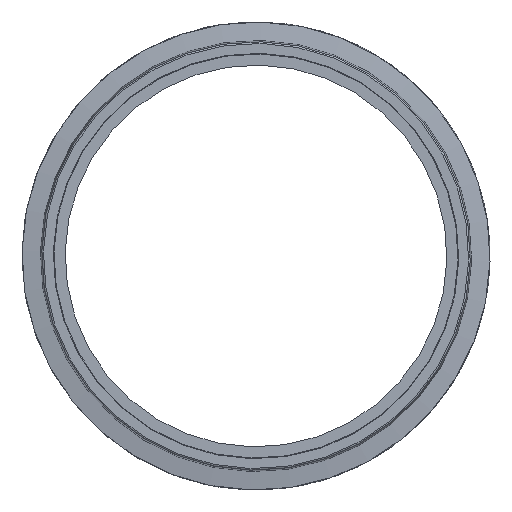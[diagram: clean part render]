
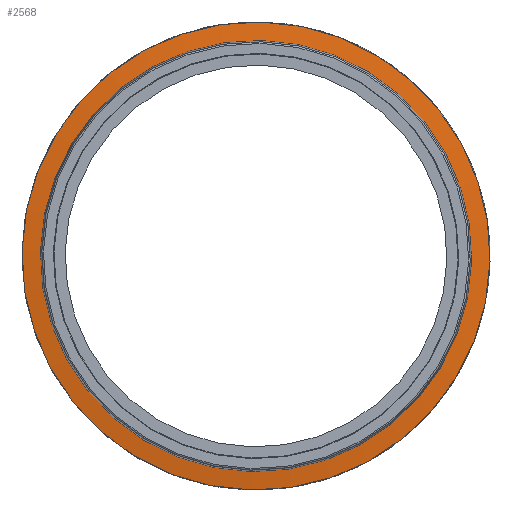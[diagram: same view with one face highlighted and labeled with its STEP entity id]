
A CAD part, left-side view. The second image highlights one B-rep face of the part: STEP entity #2568.
In plain terms, the highlighted conical face has half-angle 83 degrees and reference radius 67.208 mm.
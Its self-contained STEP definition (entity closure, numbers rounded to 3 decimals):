
#213=CONICAL_SURFACE('',#2779,67.208,1.449);
#229=FACE_BOUND('',#510,.T.);
#321=FACE_OUTER_BOUND('',#509,.T.);
#509=EDGE_LOOP('',(#1681));
#510=EDGE_LOOP('',(#1682));
#675=CIRCLE('',#2719,72.95);
#723=CIRCLE('',#2780,67.208);
#976=VERTEX_POINT('',#3969);
#1047=VERTEX_POINT('',#9747);
#1212=EDGE_CURVE('',#976,#976,#675,.T.);
#1298=EDGE_CURVE('',#1047,#1047,#723,.T.);
#1681=ORIENTED_EDGE('',*,*,#1212,.T.);
#1682=ORIENTED_EDGE('',*,*,#1298,.T.);
#2568=ADVANCED_FACE('',(#321,#229),#213,.T.);
#2719=AXIS2_PLACEMENT_3D('',#3970,#3007,#3008);
#2779=AXIS2_PLACEMENT_3D('',#9746,#3135,#3136);
#2780=AXIS2_PLACEMENT_3D('',#9748,#3137,#3138);
#3007=DIRECTION('center_axis',(-1.,0.,0.));
#3008=DIRECTION('ref_axis',(0.,-0.878,0.479));
#3135=DIRECTION('center_axis',(1.,0.,0.));
#3136=DIRECTION('ref_axis',(0.,-0.878,0.479));
#3137=DIRECTION('center_axis',(1.,0.,0.));
#3138=DIRECTION('ref_axis',(0.,-0.878,0.479));
#3969=CARTESIAN_POINT('',(-69.391,64.02,-34.974));
#3970=CARTESIAN_POINT('Origin',(-69.391,0.,0.));
#9746=CARTESIAN_POINT('Origin',(-70.096,0.,0.));
#9747=CARTESIAN_POINT('',(-70.096,58.98,-32.221));
#9748=CARTESIAN_POINT('Origin',(-70.096,0.,
0.));
